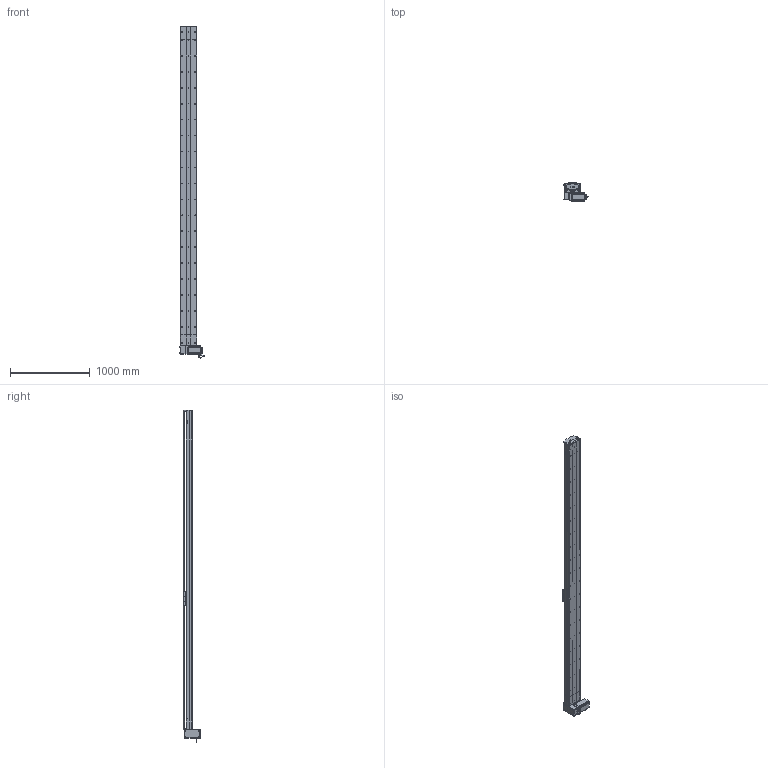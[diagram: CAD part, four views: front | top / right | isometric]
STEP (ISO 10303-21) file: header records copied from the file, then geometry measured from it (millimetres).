
FILE_DESCRIPTION (( 'STEP AP214' ), '1' );
FILE_NAME ('D20 TBH RU S3700.STEP', '2010-07-01T09:05:52', ( 'Conseil Régional Haute-Normandie' ), ( 'Conseil Régional Haute-Normandie' ), 'SwSTEP 2.0', 'SolidWorks 2010', '' );
FILE_SCHEMA (( 'AUTOMOTIVE_DESIGN' ));
Length unit declared in the file: millimetre
Products named in the file (40): plaque de  bout tail D20_Default; head RU_Default; Chariot D20B; guide D20B; corpl head D20_Default; vis M8 L12_Default; clavette; Conecteur_Default; poulie tail D20_Default; corpl tail D20 +100_Default; tail D20+100_Default; Conecteur2_Default; codeur 110BLDC170A-630x; corps 110BLDC170A-630x; avant 110BLDC170A-630x; Moteur motionking 110BLDC170A-640x; vis M5 L70_Default; vis M5 L5_Default; couroie_Default; Couroie tail D20_Default; cache D20_Default; Plaque racord D20LH_Default; Renvoi RU D20_Default; rail head D20; cache arbre D20_Default; plaque de  bout head D20B RU_Default; couvercle head D20_Default; poulie head D20_Default; rail tail D20; vis M5 L8 90°_Default; vis M5 L12_Default; tete d''axe poulie D20B; vis M5 L25_Default; couvercle tail D20_Default; corp D20 S3700_Default; Course B L3700_Default; D20 TBH RU S3700; chariot D20B_Default; rail + couroie  D20 S3700; couvercle D20 S3700_Default
Assembly tree (71 placements, depth 4):
  D20 TBH RU S3700
    tail D20+100_Default
      vis M5 L8 90°_Default  x2
      vis M5 L25_Default  x2
      vis M5 L12_Default  x4
      couvercle tail D20_Default
      plaque de  bout tail D20_Default
      corpl tail D20 +100_Default
      Couroie tail D20_Default
      rail tail D20
      tete d''axe poulie D20B
      poulie tail D20_Default
    Course B L3700_Default
      corp D20 S3700_Default
      couvercle D20 S3700_Default
      rail + couroie  D20 S3700
    head RU_Default
      vis M8 L12_Default  x4
      vis M5 L25_Default  x2
      couroie_Default
      vis M5 L12_Default  x10
      Moteur motionking 110BLDC170A-640x
        clavette
        codeur 110BLDC170A-630x
        corps 110BLDC170A-630x
        Conecteur_Default
        avant 110BLDC170A-630x
        Conecteur2_Default
      vis M5 L5_Default  x4
      cache D20_Default  x2
      Renvoi RU D20_Default
      cache arbre D20_Default
      corpl head D20_Default
      vis M5 L70_Default  x4
      rail head D20
      couvercle head D20_Default
      Plaque racord D20LH_Default
      plaque de  bout head D20B RU_Default
      poulie head D20_Default
    chariot D20B_Default
      vis M5 L12_Default  x4
      guide D20B  x2
      Chariot D20B
Bounding box: 304.2 x 223.2 x 4165 mm (x, y, z)
Volume: 31859696.2 mm3; surface area: 7938236.8 mm2
Topology: 95 solids, 95 shells, 2935 faces, 7629 edges, 4937 vertices
Faces by surface type: plane 1660, cylinder 951, bspline 136, cone 99, torus 89
Entity records: 96642 total; most frequent: CARTESIAN_POINT 31727, ORIENTED_EDGE 11914, DIRECTION 11134, EDGE_CURVE 5957, VERTEX_POINT 3923, VECTOR 3714, LINE 3714, AXIS2_PLACEMENT_3D 3710
